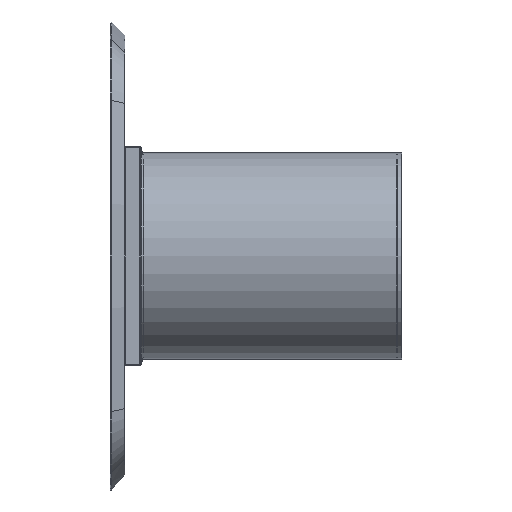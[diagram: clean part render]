
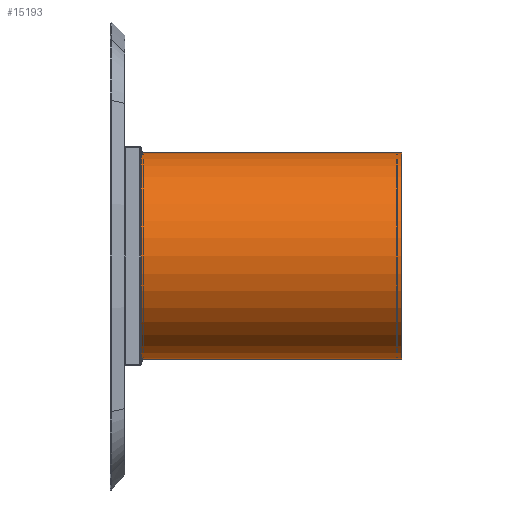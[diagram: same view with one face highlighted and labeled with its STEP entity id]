
A CAD part, left-side view. The second image highlights one B-rep face of the part: STEP entity #15193.
In plain terms, the highlighted cylindrical face has radius 265 mm (diameter 530 mm), a partial arc.
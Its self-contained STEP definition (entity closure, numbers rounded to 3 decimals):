
#163 = CARTESIAN_POINT ( 'NONE',  ( 0., 0., -265. ) ) ;
#214 = CARTESIAN_POINT ( 'NONE',  ( 0., 0., 0. ) ) ;
#739 = EDGE_LOOP ( 'NONE', ( #4179, #6407, #13543, #10135 ) ) ;
#1994 = VECTOR ( 'NONE', #11867, 1000. ) ;
#2124 = VECTOR ( 'NONE', #14591, 1000. ) ;
#2651 = CARTESIAN_POINT ( 'NONE',  ( 0., 670., 0. ) ) ;
#3380 = CIRCLE ( 'NONE', #12322, 265. ) ;
#3792 = CARTESIAN_POINT ( 'NONE',  ( 0., 0., 265. ) ) ;
#4046 = VERTEX_POINT ( 'NONE', #15859 ) ;
#4083 = DIRECTION ( 'NONE',  ( 0., -1., 0. ) ) ;
#4179 = ORIENTED_EDGE ( 'NONE', *, *, #13522, .F. ) ;
#4482 = EDGE_CURVE ( 'NONE', #15220, #4046, #12433, .T. ) ;
#5468 = DIRECTION ( 'NONE',  ( 0., 0., 1. ) ) ;
#6407 = ORIENTED_EDGE ( 'NONE', *, *, #4482, .F. ) ;
#6520 = DIRECTION ( 'NONE',  ( 0., 0., 1. ) ) ;
#6553 = FACE_OUTER_BOUND ( 'NONE', #739, .T. ) ;
#7913 = VERTEX_POINT ( 'NONE', #163 ) ;
#7970 = CARTESIAN_POINT ( 'NONE',  ( 0., 670., -265. ) ) ;
#8160 = VERTEX_POINT ( 'NONE', #3792 ) ;
#8161 = CARTESIAN_POINT ( 'NONE',  ( 0., 670., 265. ) ) ;
#9085 = CARTESIAN_POINT ( 'NONE',  ( 0., 670., 0. ) ) ;
#9259 = LINE ( 'NONE', #8161, #2124 ) ;
#10135 = ORIENTED_EDGE ( 'NONE', *, *, #11971, .T. ) ;
#10467 = DIRECTION ( 'NONE',  ( 0., 0., -1. ) ) ;
#10519 = LINE ( 'NONE', #7970, #1994 ) ;
#11726 = CYLINDRICAL_SURFACE ( 'NONE', #16128, 265. ) ;
#11867 = DIRECTION ( 'NONE',  ( 0., -1., 0. ) ) ;
#11915 = DIRECTION ( 'NONE',  ( 0., 1., 0. ) ) ;
#11971 = EDGE_CURVE ( 'NONE', #7913, #8160, #3380, .T. ) ;
#12322 = AXIS2_PLACEMENT_3D ( 'NONE', #214, #11915, #5468 ) ;
#12433 = CIRCLE ( 'NONE', #13235, 265. ) ;
#13235 = AXIS2_PLACEMENT_3D ( 'NONE', #9085, #14237, #6520 ) ;
#13522 = EDGE_CURVE ( 'NONE', #4046, #8160, #9259, .T. ) ;
#13543 = ORIENTED_EDGE ( 'NONE', *, *, #14013, .T. ) ;
#14013 = EDGE_CURVE ( 'NONE', #15220, #7913, #10519, .T. ) ;
#14237 = DIRECTION ( 'NONE',  ( 0., 1., 0. ) ) ;
#14268 = CARTESIAN_POINT ( 'NONE',  ( 0., 670., -265. ) ) ;
#14591 = DIRECTION ( 'NONE',  ( 0., -1., 0. ) ) ;
#15193 = ADVANCED_FACE ( 'NONE', ( #6553 ), #11726, .T. ) ;
#15220 = VERTEX_POINT ( 'NONE', #14268 ) ;
#15859 = CARTESIAN_POINT ( 'NONE',  ( 0., 670., 265. ) ) ;
#16128 = AXIS2_PLACEMENT_3D ( 'NONE', #2651, #4083, #10467 ) ;
